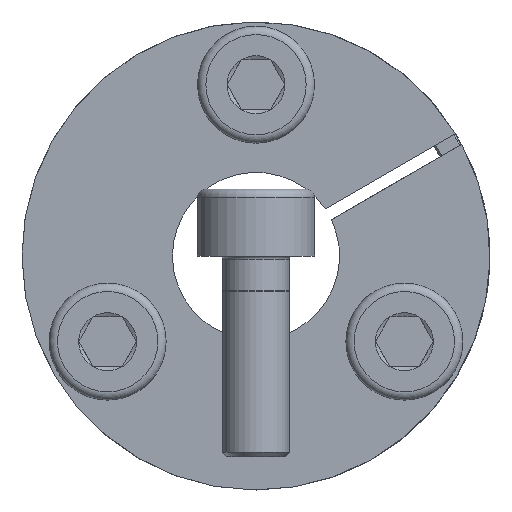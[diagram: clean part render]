
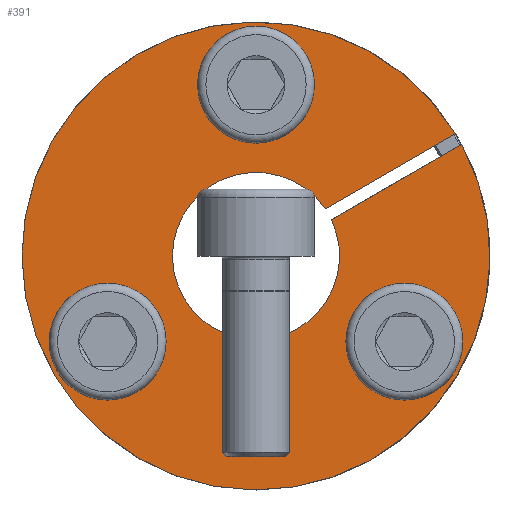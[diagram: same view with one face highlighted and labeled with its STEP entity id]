
A CAD part, front view. The second image highlights one B-rep face of the part: STEP entity #391.
In plain terms, the highlighted planar face has unit normal (0, -1, 0).
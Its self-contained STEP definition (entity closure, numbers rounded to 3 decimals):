
#391 = ADVANCED_FACE( '', ( #656, #657, #658, #659 ), #660, .F. );
#656 = FACE_BOUND( '', #898, .T. );
#657 = FACE_BOUND( '', #899, .T. );
#658 = FACE_BOUND( '', #900, .T. );
#659 = FACE_OUTER_BOUND( '', #901, .T. );
#660 = PLANE( '', #902 );
#898 = EDGE_LOOP( '', ( #1249 ) );
#899 = EDGE_LOOP( '', ( #1250 ) );
#900 = EDGE_LOOP( '', ( #1251 ) );
#901 = EDGE_LOOP( '', ( #1252, #1253, #1254, #1255 ) );
#902 = AXIS2_PLACEMENT_3D( '', #1256, #1257, #1258 );
#1249 = ORIENTED_EDGE( '', *, *, #1767, .T. );
#1250 = ORIENTED_EDGE( '', *, *, #1768, .T. );
#1251 = ORIENTED_EDGE( '', *, *, #1761, .T. );
#1252 = ORIENTED_EDGE( '', *, *, #1756, .T. );
#1253 = ORIENTED_EDGE( '', *, *, #1762, .T. );
#1254 = ORIENTED_EDGE( '', *, *, #1733, .T. );
#1255 = ORIENTED_EDGE( '', *, *, #1724, .F. );
#1256 = CARTESIAN_POINT( '', ( 0., 0., 14. ) );
#1257 = DIRECTION( '', ( 0., 1., 0. ) );
#1258 = DIRECTION( '', ( 0., 0., 1. ) );
#1724 = EDGE_CURVE( '', #1910, #1906, #1912, .T. );
#1733 = EDGE_CURVE( '', #1929, #1906, #1930, .T. );
#1756 = EDGE_CURVE( '', #1910, #1965, #1967, .T. );
#1761 = EDGE_CURVE( '', #1973, #1973, #1974, .T. );
#1762 = EDGE_CURVE( '', #1965, #1929, #1975, .T. );
#1767 = EDGE_CURVE( '', #1983, #1983, #1984, .T. );
#1768 = EDGE_CURVE( '', #1985, #1985, #1986, .T. );
#1906 = VERTEX_POINT( '', #2109 );
#1910 = VERTEX_POINT( '', #2114 );
#1912 = CIRCLE( '', #2117, 5. );
#1929 = VERTEX_POINT( '', #2142 );
#1930 = LINE( '', #2143, #2144 );
#1965 = VERTEX_POINT( '', #2208 );
#1967 = LINE( '', #2211, #2212 );
#1973 = VERTEX_POINT( '', #2218 );
#1974 = CIRCLE( '', #2219, 2. );
#1975 = CIRCLE( '', #2220, 14. );
#1983 = VERTEX_POINT( '', #2228 );
#1984 = CIRCLE( '', #2229, 2. );
#1985 = VERTEX_POINT( '', #2230 );
#1986 = CIRCLE( '', #2231, 2. );
#2109 = CARTESIAN_POINT( '', ( 4.505, 0., 2.168 ) );
#2114 = CARTESIAN_POINT( '', ( 4.13, 0., 2.818 ) );
#2117 = AXIS2_PLACEMENT_3D( '', #2458, #2459, #2460 );
#2142 = CARTESIAN_POINT( '', ( 12.308, 0., 6.673 ) );
#2143 = CARTESIAN_POINT( '', ( 12.312, 0., 6.675 ) );
#2144 = VECTOR( '', #2475, 1000. );
#2208 = CARTESIAN_POINT( '', ( 11.933, 0., 7.322 ) );
#2211 = CARTESIAN_POINT( '', ( 4.13, 0., 2.818 ) );
#2212 = VECTOR( '', #2500, 1000. );
#2218 = CARTESIAN_POINT( '', ( -9.877, 0., -3.393 ) );
#2219 = AXIS2_PLACEMENT_3D( '', #2513, #2514, #2515 );
#2220 = AXIS2_PLACEMENT_3D( '', #2516, #2517, #2518 );
#2228 = CARTESIAN_POINT( '', ( 2., 0., 10.25 ) );
#2229 = AXIS2_PLACEMENT_3D( '', #2531, #2532, #2533 );
#2230 = CARTESIAN_POINT( '', ( 7.877, 0., -6.857 ) );
#2231 = AXIS2_PLACEMENT_3D( '', #2534, #2535, #2536 );
#2458 = CARTESIAN_POINT( '', ( 0., 0., 0. ) );
#2459 = DIRECTION( '', ( 0., -1., 0. ) );
#2460 = DIRECTION( '', ( 0., 0., -1. ) );
#2475 = DIRECTION( '', ( -0.866, 0., -0.5 ) );
#2500 = DIRECTION( '', ( 0.866, 0., 0.5 ) );
#2513 = CARTESIAN_POINT( '', ( -8.877, 0., -5.125 ) );
#2514 = DIRECTION( '', ( 0., 1., 0. ) );
#2515 = DIRECTION( '', ( -0.5, 0., 0.866 ) );
#2516 = CARTESIAN_POINT( '', ( 0., 0., 0. ) );
#2517 = DIRECTION( '', ( 0., -1., 0. ) );
#2518 = DIRECTION( '', ( 0., 0., -1. ) );
#2531 = CARTESIAN_POINT( '', ( 0., 0., 10.25 ) );
#2532 = DIRECTION( '', ( 0., 1., 0. ) );
#2533 = DIRECTION( '', ( 1., 0., 0. ) );
#2534 = CARTESIAN_POINT( '', ( 8.877, 0., -5.125 ) );
#2535 = DIRECTION( '', ( 0., 1., 0. ) );
#2536 = DIRECTION( '', ( -0.5, 0., -0.866 ) );
